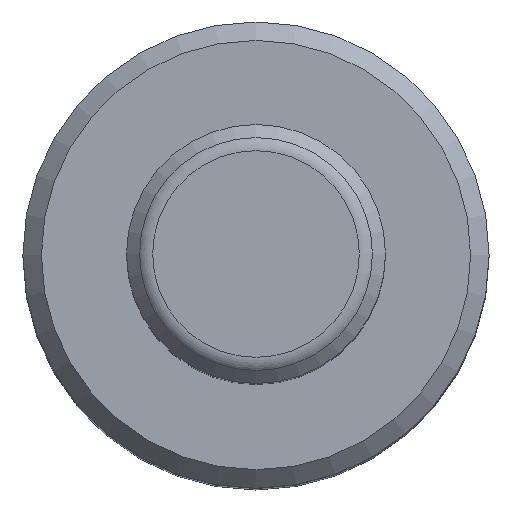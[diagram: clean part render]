
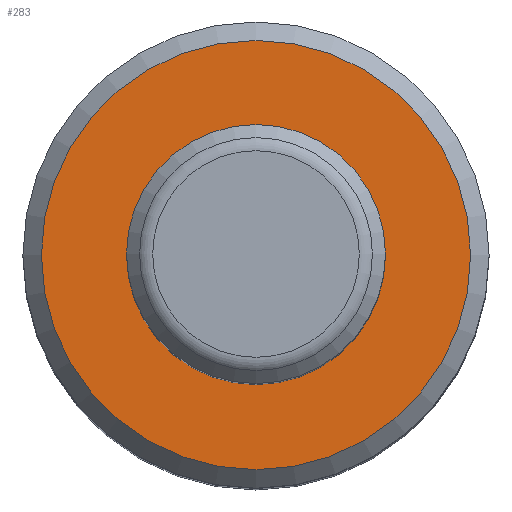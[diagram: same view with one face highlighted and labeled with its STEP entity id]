
A CAD part, top view. The second image highlights one B-rep face of the part: STEP entity #283.
In plain terms, the highlighted planar face has unit normal (0, 0, 1).
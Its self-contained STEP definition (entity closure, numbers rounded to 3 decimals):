
#263 = VERTEX_POINT('',#264);
#264 = CARTESIAN_POINT('',(11.6,0.,43.));
#272 = EDGE_CURVE('',#263,#263,#273,.T.);
#273 = CIRCLE('',#274,11.6);
#274 = AXIS2_PLACEMENT_3D('',#275,#276,#277);
#275 = CARTESIAN_POINT('',(0.,0.,43.));
#276 = DIRECTION('',(0.,0.,1.));
#277 = DIRECTION('',(1.,0.,0.));
#283 = ADVANCED_FACE('',(#284),#287,.T.);
#284 = FACE_BOUND('',#285,.T.);
#285 = EDGE_LOOP('',(#286));
#286 = ORIENTED_EDGE('',*,*,#272,.T.);
#287 = PLANE('',#288);
#288 = AXIS2_PLACEMENT_3D('',#289,#290,#291);
#289 = CARTESIAN_POINT('',(0.,0.,43.));
#290 = DIRECTION('',(0.,0.,1.));
#291 = DIRECTION('',(1.,0.,0.));
